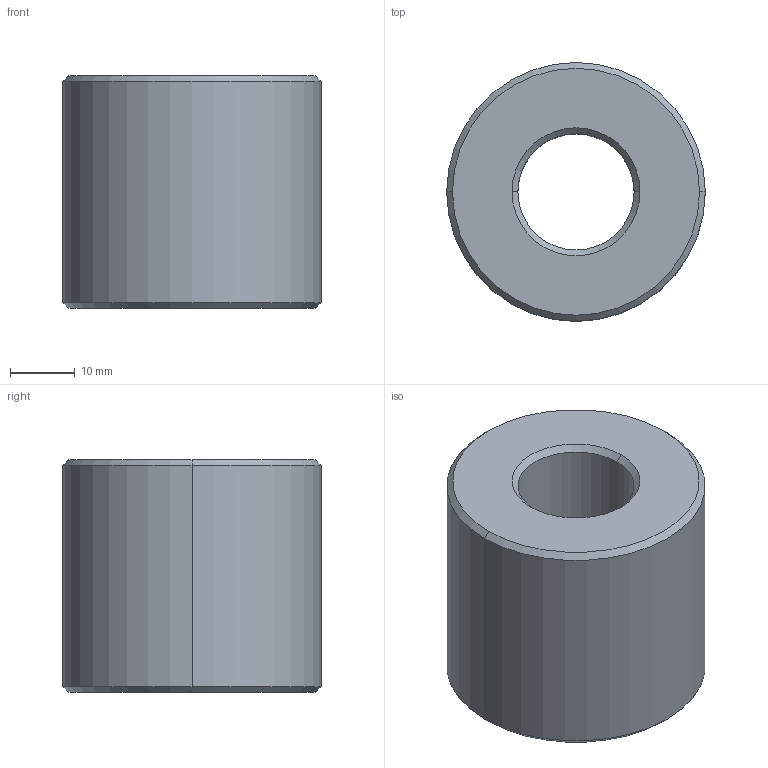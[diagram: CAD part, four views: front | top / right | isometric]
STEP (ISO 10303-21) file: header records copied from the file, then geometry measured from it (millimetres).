
FILE_DESCRIPTION (( 'STEP AP203' ), '1' );
FILE_NAME ('L1330.L18-04.step', '2024-10-24T09:22:19', ( '' ), ( '' ), 'SwSTEP 2.0', 'SolidWorks 2019', '' );
FILE_SCHEMA (( 'CONFIG_CONTROL_DESIGN' ));
Length unit declared in the file: millimetre
Products named in the file (1): L1330.L18-04
Bounding box: 40 x 40 x 36 mm (x, y, z)
Volume: 35930.5 mm3; surface area: 8371.9 mm2
Topology: 1 solids, 1 shells, 14 faces, 28 edges, 16 vertices
Faces by surface type: cone 8, cylinder 4, plane 2
Entity records: 445 total; most frequent: DIRECTION 74, CARTESIAN_POINT 59, ORIENTED_EDGE 56, AXIS2_PLACEMENT_3D 31, EDGE_CURVE 28, CIRCLE 16, VERTEX_POINT 16, EDGE_LOOP 16
